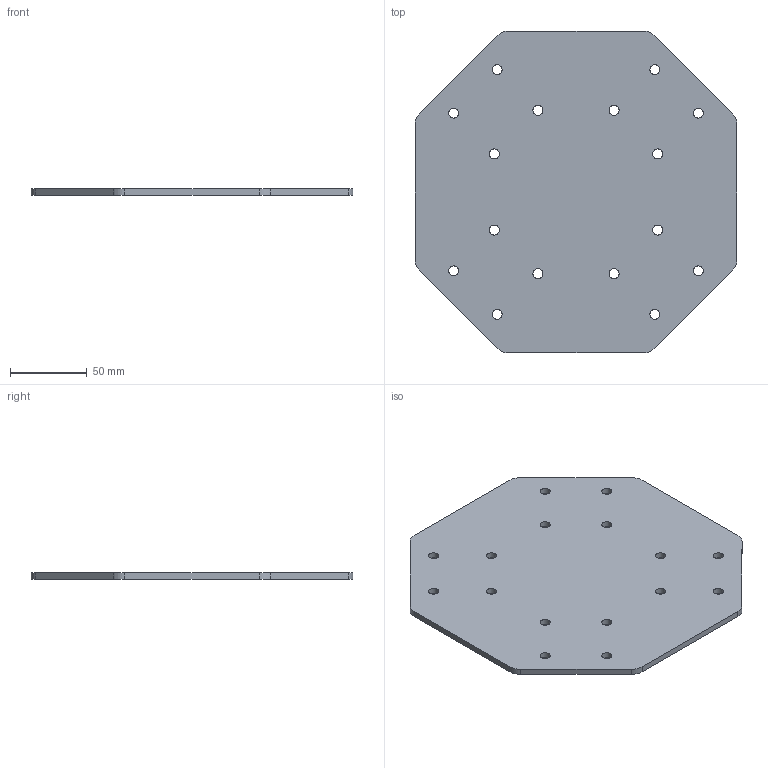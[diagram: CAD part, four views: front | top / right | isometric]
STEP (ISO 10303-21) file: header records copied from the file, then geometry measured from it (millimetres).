
FILE_DESCRIPTION(('STEP AP203'), '1');
FILE_NAME('À00804.48080 _ Êðåñòîâîé ñîåäèíèòåëü', '', ('UNSPECIFIED'), ('UNSPECIFIED'), 'C3D Converter', 'C3D Toolkit', '');
FILE_SCHEMA(('CONFIG_CONTROL_DESIGN'));
Length unit declared in the file: millimetre
Products named in the file (1): А00804.48080
Bounding box: 209.16 x 209.16 x 4 mm (x, y, z)
Volume: 147185.5 mm3; surface area: 77702.1 mm2
Topology: 1 solids, 1 shells, 34 faces, 96 edges, 64 vertices
Faces by surface type: cylinder 24, plane 10
Full cylindrical faces by diameter (mm): 6.5 x16
Entity records: 1419 total; most frequent: DIRECTION 198, CARTESIAN_POINT 179, ORIENTED_EDGE 160, AXIS2_PLACEMENT_3D 83, EDGE_LOOP 82, EDGE_CURVE 80, VERTEX_POINT 64, FACE_BOUND 50
